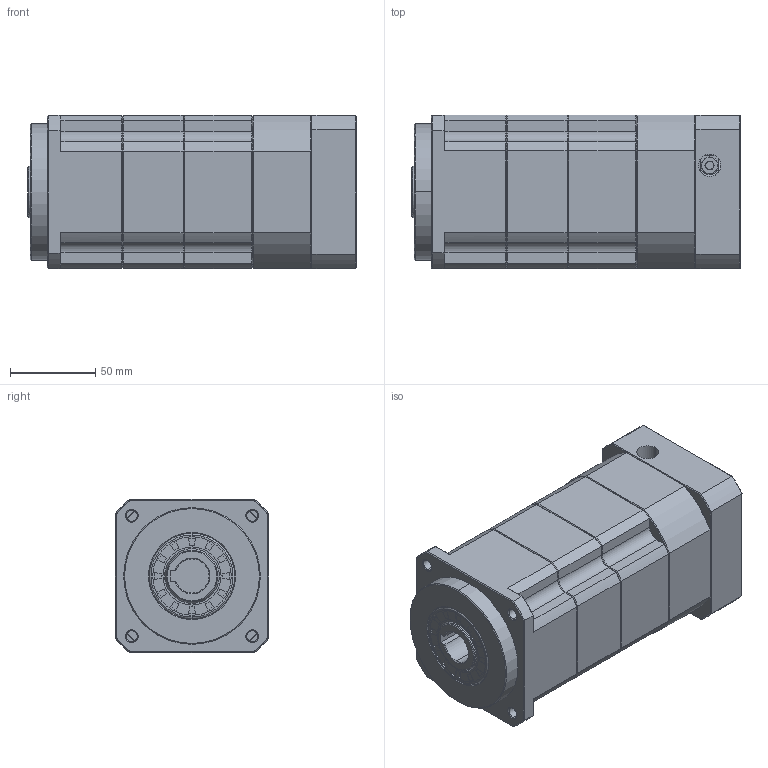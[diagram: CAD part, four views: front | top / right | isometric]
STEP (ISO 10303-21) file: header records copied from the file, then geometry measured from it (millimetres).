
FILE_DESCRIPTION (( 'STEP AP214' ), '1' );
FILE_NAME ('ZPB090-K20-L3-P1-19-70-90-M6.step', '2024-06-07T18:28:10', ( 'Windows 蚚誧' ), ( 'Organization' ), 'SwSTEP 2.0', 'SolidWorks 2016', '' );
FILE_SCHEMA (( 'AUTOMOTIVE_DESIGN' ));
Length unit declared in the file: millimetre
Products named in the file (1): ZPB090-K20-L3-P1-19-70-90-M6
Bounding box: 192.5 x 90 x 90 mm (x, y, z)
Surface area: 100400.4 mm2 (no closed solid volume)
Topology: 0 solids, 35 shells, 1937 faces, 5081 edges, 3210 vertices
Faces by surface type: plane 1001, bspline 372, cone 309, cylinder 243, torus 12
Entity records: 90979 total; most frequent: CARTESIAN_POINT 41521, ORIENTED_EDGE 10141, DIRECTION 7998, EDGE_CURVE 5081, VECTOR 3322, LINE 3322, VERTEX_POINT 3210, AXIS2_PLACEMENT_3D 2338
